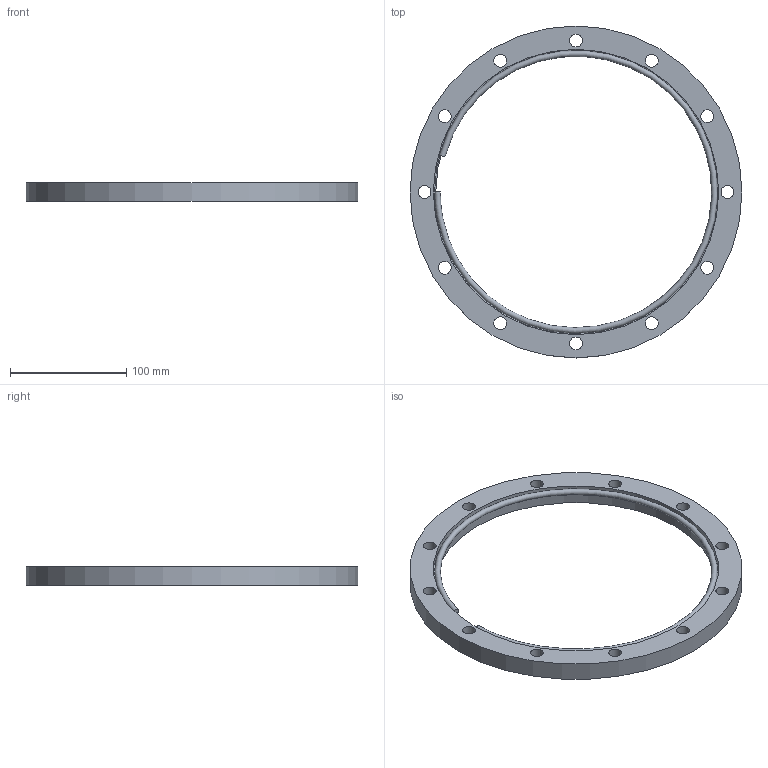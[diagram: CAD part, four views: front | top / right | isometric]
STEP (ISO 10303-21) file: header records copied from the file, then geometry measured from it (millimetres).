
FILE_DESCRIPTION( ( 'Unknown' ), '1' );
FILE_NAME( 'X:/Daten ( aktueller Bestand )/Projekte und Zeichnungen/Solid Edge/10 ISO-K Bauteile/ISO-K-Überwurfflansch mit Sprengring/6584.stp', 'Unknown', ( 'Unknown' ), ( 'Unknown' ), 'XStep 1.0', 'Unknown', ' ' );
FILE_SCHEMA( ( 'automotive_design' ) );
Length unit declared in the file: millimetre
Products named in the file (2): 1; 2
Bounding box: 285 x 285 x 16 mm (x, y, z)
Volume: 278798 mm3; surface area: 78405.3 mm2
Topology: 2 solids, 2 shells, 22 faces, 63 edges, 46 vertices
Faces by surface type: cylinder 15, plane 5, torus 2
Full cylindrical faces by diameter (mm): 11 x12, 240.7 x1, 245 x1, 285 x1
Entity records: 813 total; most frequent: DIRECTION 114, CARTESIAN_POINT 90, EDGE_LOOP 66, ORIENTED_EDGE 66, AXIS2_PLACEMENT_3D 57, FACE_OUTER_BOUND 39, EDGE_CURVE 33, VERTEX_POINT 33
